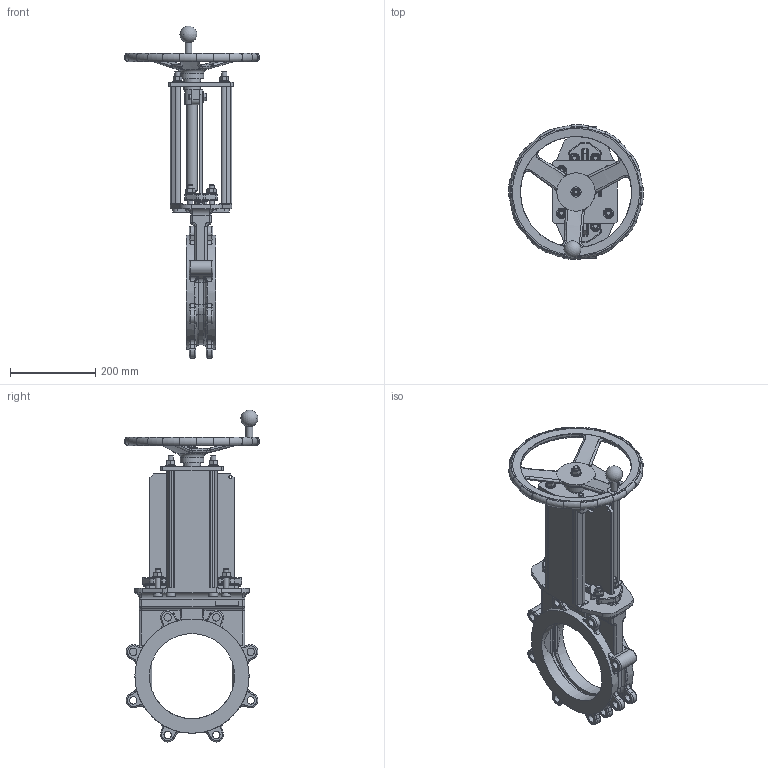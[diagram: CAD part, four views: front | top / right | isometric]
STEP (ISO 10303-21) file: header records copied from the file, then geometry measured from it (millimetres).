
FILE_DESCRIPTION(/* description */ (''),/* implementation_level */ '2;1');
FILE_NAME(/* name */ 'F:\3D Sammanställningar\WB\DN200\WB14E-DN200-PN10-HW.stp',/* time_stamp */ '2021-06-28T14:00:57+02:00',/* author */ ('MATZET'),/* organization */ (''),/* preprocessor_version */ 'ST-DEVELOPER v18',/* originating_system */ 'Autodesk Inventor 2020',/* authorisation */ '');
FILE_SCHEMA (('AUTOMOTIVE_DESIGN { 1 0 10303 214 3 1 1 }'));
Length unit declared in the file: millimetre
Products named in the file (1): WB14E-DN200-PN10-HW_Shrinkwrap_1
Bounding box: 316.79 x 316.79 x 779.5 mm (x, y, z)
Volume: 4985364.4 mm3; surface area: 1094534.1 mm2
Topology: 1 solids, 1 shells, 1658 faces, 4280 edges, 2650 vertices
Faces by surface type: plane 651, cylinder 495, torus 219, bspline 197, cone 59, sphere 37
Full cylindrical faces by diameter (mm): 7 x1, 8.376 x1, 10.106 x4, 12 x23, 13 x8, 15 x1, 15.5 x1, 16 x1, 16.63 x2, 17.294 x16, 20 x2, 24 x12, 40 x2, 55 x1, 200 x2, 268 x2, 298 x1
Entity records: 56205 total; most frequent: CARTESIAN_POINT 15150, ORIENTED_EDGE 8532, DIRECTION 8362, EDGE_CURVE 4266, AXIS2_PLACEMENT_3D 3226, VERTEX_POINT 2650, LINE 1910, VECTOR 1910
